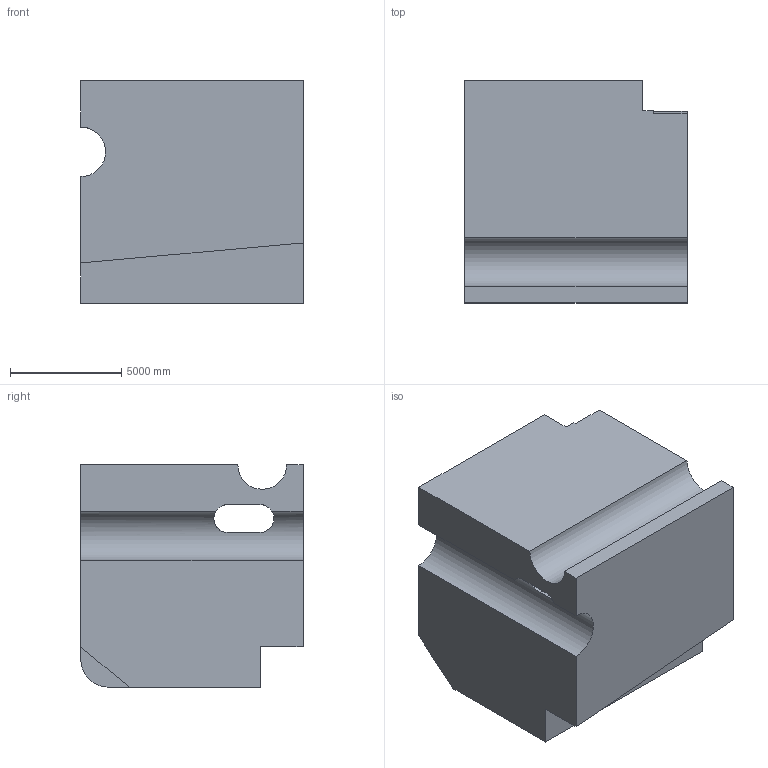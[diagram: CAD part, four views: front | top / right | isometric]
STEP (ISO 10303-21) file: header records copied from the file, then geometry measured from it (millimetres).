
FILE_DESCRIPTION (( 'STEP AP203' ), '1' );
FILE_NAME ('1945.STEP', '2022-08-25T16:50:27', ( 'user' ), ( '' ), 'SwSTEP 2.0', 'SolidWorks 2021', '' );
FILE_SCHEMA (( 'CONFIG_CONTROL_DESIGN' ));
Length unit declared in the file: centimetre
Products named in the file (1): 1945
Bounding box: 10000 x 10000 x 10000 mm (x, y, z)
Volume: 839422566721.9 mm3; surface area: 695814312.5 mm2
Topology: 1 solids, 1 shells, 31 faces, 90 edges, 60 vertices
Faces by surface type: plane 26, cylinder 5
Entity records: 1291 total; most frequent: CARTESIAN_POINT 388, ORIENTED_EDGE 180, DIRECTION 160, EDGE_CURVE 90, LINE 76, VECTOR 76, VERTEX_POINT 60, AXIS2_PLACEMENT_3D 42
